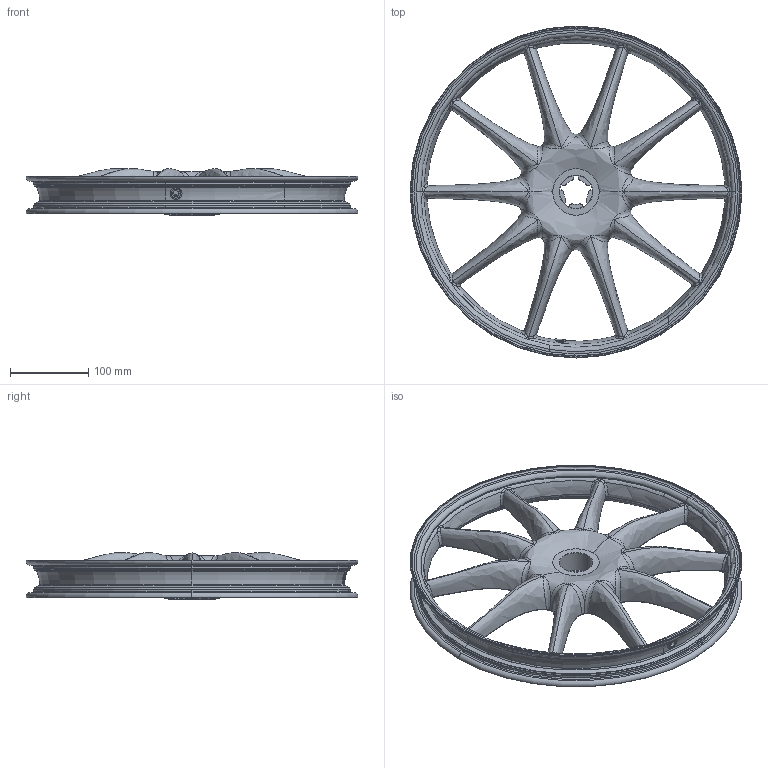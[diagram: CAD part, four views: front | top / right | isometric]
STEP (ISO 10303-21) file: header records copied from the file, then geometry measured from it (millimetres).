
FILE_DESCRIPTION (( 'STEP AP214' ), '1' );
FILE_NAME ('CBW2 fit.STEP', '2024-02-12T15:07:39', ( '' ), ( '' ), 'SwSTEP 2.0', 'SolidWorks 2024', '' );
FILE_SCHEMA (( 'AUTOMOTIVE_DESIGN' ));
Length unit declared in the file: millimetre
Products named in the file (1): CBW2 fit
Bounding box: 424.98 x 424.98 x 59.3 mm (x, y, z)
Volume: 1204541.9 mm3; surface area: 431574.7 mm2
Topology: 1 solids, 3 shells, 2468 faces, 6190 edges, 3747 vertices
Faces by surface type: bspline 1581, plane 316, torus 199, cone 198, cylinder 174
Entity records: 191333 total; most frequent: CARTESIAN_POINT 144742, ORIENTED_EDGE 12366, EDGE_CURVE 6183, DIRECTION 5876, VERTEX_POINT 3747, B_SPLINE_CURVE_WITH_KNOTS 3667, EDGE_LOOP 2518, AXIS2_PLACEMENT_3D 2493
